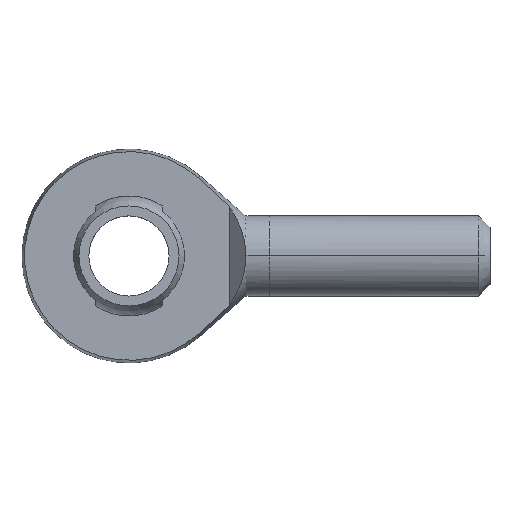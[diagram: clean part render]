
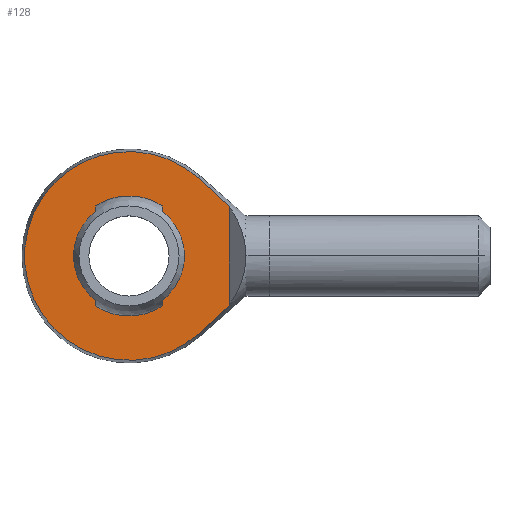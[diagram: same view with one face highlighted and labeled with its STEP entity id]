
A CAD part, top view. The second image highlights one B-rep face of the part: STEP entity #128.
In plain terms, the highlighted planar face has unit normal (0, 0, 1).
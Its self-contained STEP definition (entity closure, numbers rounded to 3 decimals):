
#113 = ORIENTED_EDGE ( 'NONE', *, *, #114, .F. ) ;
#114 = EDGE_CURVE ( 'NONE', #327, #291, #516, .T. ) ;
#115 = ORIENTED_EDGE ( 'NONE', *, *, #290, .F. ) ;
#116 = ORIENTED_EDGE ( 'NONE', *, *, #222, .T. ) ;
#117 = EDGE_CURVE ( 'NONE', #121, #337, #508, .T. ) ;
#118 = ORIENTED_EDGE ( 'NONE', *, *, #123, .F. ) ;
#119 = ORIENTED_EDGE ( 'NONE', *, *, #117, .F. ) ;
#121 = VERTEX_POINT ( 'NONE', #563 ) ;
#122 = EDGE_LOOP ( 'NONE', ( #355, #356, #358, #359 ) ) ;
#123 = EDGE_CURVE ( 'NONE', #185, #121, #562, .T. ) ;
#125 = EDGE_CURVE ( 'NONE', #330, #338, #558, .T. ) ;
#126 = ORIENTED_EDGE ( 'NONE', *, *, #332, .F. ) ;
#127 = ORIENTED_EDGE ( 'NONE', *, *, #125, .T. ) ;
#128 = ADVANCED_FACE ( 'NONE', ( #553, #552 ), #551, .F. ) ;
#129 = EDGE_LOOP ( 'NONE', ( #126, #127, #131, #119, #118, #116, #115, #113 ) ) ;
#131 = ORIENTED_EDGE ( 'NONE', *, *, #336, .F. ) ;
#185 = VERTEX_POINT ( 'NONE', #629 ) ;
#189 = VERTEX_POINT ( 'NONE', #680 ) ;
#191 = VERTEX_POINT ( 'NONE', #674 ) ;
#193 = EDGE_CURVE ( 'NONE', #194, #191, #673, .T. ) ;
#194 = VERTEX_POINT ( 'NONE', #668 ) ;
#222 = EDGE_CURVE ( 'NONE', #185, #189, #732, .T. ) ;
#237 = EDGE_CURVE ( 'NONE', #238, #194, #745, .T. ) ;
#238 = VERTEX_POINT ( 'NONE', #744 ) ;
#241 = VERTEX_POINT ( 'NONE', #792 ) ;
#243 = EDGE_CURVE ( 'NONE', #191, #241, #786, .T. ) ;
#290 = EDGE_CURVE ( 'NONE', #291, #189, #876, .T. ) ;
#291 = VERTEX_POINT ( 'NONE', #867 ) ;
#327 = VERTEX_POINT ( 'NONE', #924 ) ;
#330 = VERTEX_POINT ( 'NONE', #981 ) ;
#332 = EDGE_CURVE ( 'NONE', #330, #327, #980, .T. ) ;
#336 = EDGE_CURVE ( 'NONE', #337, #338, #975, .T. ) ;
#337 = VERTEX_POINT ( 'NONE', #966 ) ;
#338 = VERTEX_POINT ( 'NONE', #965 ) ;
#355 = ORIENTED_EDGE ( 'NONE', *, *, #243, .T. ) ;
#356 = ORIENTED_EDGE ( 'NONE', *, *, #357, .T. ) ;
#357 = EDGE_CURVE ( 'NONE', #241, #238, #1009, .T. ) ;
#358 = ORIENTED_EDGE ( 'NONE', *, *, #237, .T. ) ;
#359 = ORIENTED_EDGE ( 'NONE', *, *, #193, .T. ) ;
#508 = CIRCLE ( 'NONE', #567, 9. ) ;
#509 = DIRECTION ( 'NONE',  ( 1., 0., 0. ) ) ;
#510 = DIRECTION ( 'NONE',  ( 0., 0., 1. ) ) ;
#511 = CARTESIAN_POINT ( 'NONE',  ( 0., 0., 3.5 ) ) ;
#512 = AXIS2_PLACEMENT_3D ( 'NONE', #511, #510, #509 ) ;
#516 = CIRCLE ( 'NONE', #512, 9. ) ;
#547 = DIRECTION ( 'NONE',  ( -1., 0., 0. ) ) ;
#548 = DIRECTION ( 'NONE',  ( 0., 0., -1. ) ) ;
#549 = CARTESIAN_POINT ( 'NONE',  ( -16., -16., 3.5 ) ) ;
#550 = AXIS2_PLACEMENT_3D ( 'NONE', #549, #548, #547 ) ;
#551 = PLANE ( 'NONE',  #550 ) ;
#552 = FACE_OUTER_BOUND ( 'NONE', #122, .T. ) ;
#553 = FACE_BOUND ( 'NONE', #129, .T. ) ;
#554 = DIRECTION ( 'NONE',  ( -1., 0., 0. ) ) ;
#555 = DIRECTION ( 'NONE',  ( 0., 0., -1. ) ) ;
#556 = CARTESIAN_POINT ( 'NONE',  ( 0., 0., 3.5 ) ) ;
#557 = AXIS2_PLACEMENT_3D ( 'NONE', #556, #555, #554 ) ;
#558 = CIRCLE ( 'NONE', #557, 8.292 ) ;
#559 = DIRECTION ( 'NONE',  ( 0., -1., 0. ) ) ;
#560 = VECTOR ( 'NONE', #559, 1000. ) ;
#561 = CARTESIAN_POINT ( 'NONE',  ( -5., 7.483, 3.5 ) ) ;
#562 = LINE ( 'NONE', #561, #560 ) ;
#563 = CARTESIAN_POINT ( 'NONE',  ( -5., -7.483, 3.5 ) ) ;
#564 = DIRECTION ( 'NONE',  ( 1., 0., 0. ) ) ;
#565 = DIRECTION ( 'NONE',  ( 0., 0., 1. ) ) ;
#566 = CARTESIAN_POINT ( 'NONE',  ( 0., 0., 3.5 ) ) ;
#567 = AXIS2_PLACEMENT_3D ( 'NONE', #566, #565, #564 ) ;
#629 = CARTESIAN_POINT ( 'NONE',  ( -5., -6.614, 3.5 ) ) ;
#668 = CARTESIAN_POINT ( 'NONE',  ( 10.49, 11.564, 3.5 ) ) ;
#669 = DIRECTION ( 'NONE',  ( -1., 0., 0. ) ) ;
#670 = DIRECTION ( 'NONE',  ( 0., 0., 1. ) ) ;
#671 = CARTESIAN_POINT ( 'NONE',  ( 0., 0., 3.5 ) ) ;
#672 = AXIS2_PLACEMENT_3D ( 'NONE', #671, #670, #669 ) ;
#673 = CIRCLE ( 'NONE', #672, 15.612 ) ;
#674 = CARTESIAN_POINT ( 'NONE',  ( 10.49, -11.564, 3.5 ) ) ;
#680 = CARTESIAN_POINT ( 'NONE',  ( -5., 6.614, 3.5 ) ) ;
#728 = DIRECTION ( 'NONE',  ( -1., 0., 0. ) ) ;
#729 = DIRECTION ( 'NONE',  ( 0., 0., -1. ) ) ;
#730 = CARTESIAN_POINT ( 'NONE',  ( 0., 0., 3.5 ) ) ;
#731 = AXIS2_PLACEMENT_3D ( 'NONE', #730, #729, #728 ) ;
#732 = CIRCLE ( 'NONE', #731, 8.292 ) ;
#743 = CARTESIAN_POINT ( 'NONE',  ( 15., 7.377, 3.5 ) ) ;
#744 = CARTESIAN_POINT ( 'NONE',  ( 15., 7.377, 3.5 ) ) ;
#745 = B_SPLINE_CURVE_WITH_KNOTS ( 'NONE', 3,
 ( #743, #795, #794, #793 ),
 .UNSPECIFIED., .F., .F.,
 ( 4, 4 ),
 ( 0.067, 0.073 ),
 .UNSPECIFIED. ) ;
#781 = CARTESIAN_POINT ( 'NONE',  ( 15., -7.377, 3.5 ) ) ;
#782 = CARTESIAN_POINT ( 'NONE',  ( 13.521, -8.799, 3.5 ) ) ;
#783 = CARTESIAN_POINT ( 'NONE',  ( 12.009, -10.185, 3.5 ) ) ;
#784 = CARTESIAN_POINT ( 'NONE',  ( 10.49, -11.564, 3.5 ) ) ;
#786 = B_SPLINE_CURVE_WITH_KNOTS ( 'NONE', 3,
 ( #784, #783, #782, #781 ),
 .UNSPECIFIED., .F., .F.,
 ( 4, 4 ),
 ( 0.043, 0.049 ),
 .UNSPECIFIED. ) ;
#792 = CARTESIAN_POINT ( 'NONE',  ( 15., -7.377, 3.5 ) ) ;
#793 = CARTESIAN_POINT ( 'NONE',  ( 10.49, 11.564, 3.5 ) ) ;
#794 = CARTESIAN_POINT ( 'NONE',  ( 12.009, 10.185, 3.5 ) ) ;
#795 = CARTESIAN_POINT ( 'NONE',  ( 13.522, 8.798, 3.5 ) ) ;
#867 = CARTESIAN_POINT ( 'NONE',  ( -5., 7.483, 3.5 ) ) ;
#868 = DIRECTION ( 'NONE',  ( 0., -1., 0. ) ) ;
#869 = VECTOR ( 'NONE', #868, 1000. ) ;
#870 = CARTESIAN_POINT ( 'NONE',  ( -5., 7.483, 3.5 ) ) ;
#876 = LINE ( 'NONE', #870, #869 ) ;
#924 = CARTESIAN_POINT ( 'NONE',  ( 5., 7.483, 3.5 ) ) ;
#965 = CARTESIAN_POINT ( 'NONE',  ( 5., -6.614, 3.5 ) ) ;
#966 = CARTESIAN_POINT ( 'NONE',  ( 5., -7.483, 3.5 ) ) ;
#967 = DIRECTION ( 'NONE',  ( 0., 1., 0. ) ) ;
#968 = VECTOR ( 'NONE', #967, 1000. ) ;
#969 = CARTESIAN_POINT ( 'NONE',  ( 5., 7.483, 3.5 ) ) ;
#975 = LINE ( 'NONE', #969, #968 ) ;
#977 = DIRECTION ( 'NONE',  ( 0., 1., 0. ) ) ;
#978 = VECTOR ( 'NONE', #977, 1000. ) ;
#979 = CARTESIAN_POINT ( 'NONE',  ( 5., 7.483, 3.5 ) ) ;
#980 = LINE ( 'NONE', #979, #978 ) ;
#981 = CARTESIAN_POINT ( 'NONE',  ( 5., 6.614, 3.5 ) ) ;
#1006 = DIRECTION ( 'NONE',  ( 0., 1., 0. ) ) ;
#1007 = VECTOR ( 'NONE', #1006, 1000. ) ;
#1008 = CARTESIAN_POINT ( 'NONE',  ( 15., -16., 3.5 ) ) ;
#1009 = LINE ( 'NONE', #1008, #1007 ) ;
